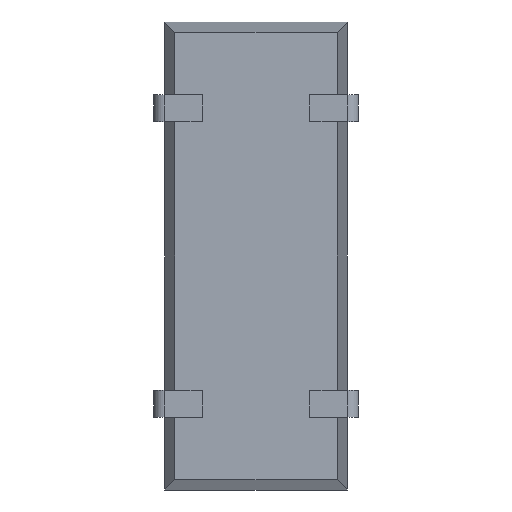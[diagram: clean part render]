
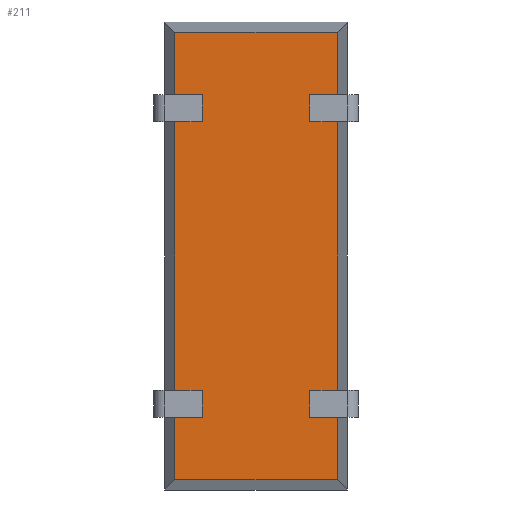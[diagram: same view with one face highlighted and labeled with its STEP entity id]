
A CAD part, front view. The second image highlights one B-rep face of the part: STEP entity #211.
In plain terms, the highlighted planar face has unit normal (0, -1, 0).
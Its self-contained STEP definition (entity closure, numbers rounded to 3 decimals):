
#125 = DIRECTION ( 'NONE',  ( 0., -1., 0. ) ) ;
#145 = DIRECTION ( 'NONE',  ( 0., 0., -1. ) ) ;
#162 = CARTESIAN_POINT ( 'NONE',  ( -1.7, 0.1, -4.35 ) ) ;
#165 = PLANE ( 'NONE',  #512 ) ;
#211 = ADVANCED_FACE ( 'NONE', ( #1540 ), #165, .T. ) ;
#359 = ORIENTED_EDGE ( 'NONE', *, *, #548, .F. ) ;
#368 = ORIENTED_EDGE ( 'NONE', *, *, #539, .F. ) ;
#379 = ORIENTED_EDGE ( 'NONE', *, *, #545, .T. ) ;
#388 = ORIENTED_EDGE ( 'NONE', *, *, #546, .T. ) ;
#404 = ORIENTED_EDGE ( 'NONE', *, *, #550, .F. ) ;
#471 = ORIENTED_EDGE ( 'NONE', *, *, #549, .F. ) ;
#472 = ORIENTED_EDGE ( 'NONE', *, *, #611, .F. ) ;
#473 = ORIENTED_EDGE ( 'NONE', *, *, #651, .F. ) ;
#475 = ORIENTED_EDGE ( 'NONE', *, *, #536, .F. ) ;
#480 = ORIENTED_EDGE ( 'NONE', *, *, #544, .F. ) ;
#482 = ORIENTED_EDGE ( 'NONE', *, *, #551, .T. ) ;
#487 = ORIENTED_EDGE ( 'NONE', *, *, #540, .T. ) ;
#488 = ORIENTED_EDGE ( 'NONE', *, *, #618, .F. ) ;
#489 = ORIENTED_EDGE ( 'NONE', *, *, #554, .F. ) ;
#490 = ORIENTED_EDGE ( 'NONE', *, *, #552, .F. ) ;
#491 = LINE ( 'NONE', #1799, #2175 ) ;
#492 = VECTOR ( 'NONE', #1815, 1000. ) ;
#493 = VECTOR ( 'NONE', #1819, 1000. ) ;
#494 = LINE ( 'NONE', #1818, #492 ) ;
#495 = LINE ( 'NONE', #1837, #493 ) ;
#496 = VECTOR ( 'NONE', #1804, 1000. ) ;
#512 = AXIS2_PLACEMENT_3D ( 'NONE', #162, #125, #145 ) ;
#536 = EDGE_CURVE ( 'NONE', #905, #926, #710, .T. ) ;
#537 = EDGE_CURVE ( 'NONE', #1040, #905, #713, .T. ) ;
#538 = EDGE_CURVE ( 'NONE', #1040, #863, #721, .T. ) ;
#539 = EDGE_CURVE ( 'NONE', #902, #863, #748, .T. ) ;
#540 = EDGE_CURVE ( 'NONE', #902, #1065, #704, .T. ) ;
#541 = EDGE_CURVE ( 'NONE', #1065, #1057, #744, .T. ) ;
#542 = EDGE_CURVE ( 'NONE', #946, #1057, #740, .T. ) ;
#543 = EDGE_CURVE ( 'NONE', #920, #946, #705, .T. ) ;
#544 = EDGE_CURVE ( 'NONE', #881, #920, #738, .T. ) ;
#545 = EDGE_CURVE ( 'NONE', #928, #1072, #690, .T. ) ;
#546 = EDGE_CURVE ( 'NONE', #1072, #1043, #1659, .T. ) ;
#548 = EDGE_CURVE ( 'NONE', #1039, #1043, #495, .T. ) ;
#549 = EDGE_CURVE ( 'NONE', #974, #866, #494, .T. ) ;
#550 = EDGE_CURVE ( 'NONE', #1053, #974, #1185, .T. ) ;
#551 = EDGE_CURVE ( 'NONE', #1053, #956, #1657, .T. ) ;
#552 = EDGE_CURVE ( 'NONE', #1041, #1070, #709, .T. ) ;
#554 = EDGE_CURVE ( 'NONE', #926, #1041, #491, .T. ) ;
#611 = EDGE_CURVE ( 'NONE', #866, #1039, #2285, .T. ) ;
#618 = EDGE_CURVE ( 'NONE', #1070, #956, #2298, .T. ) ;
#651 = EDGE_CURVE ( 'NONE', #928, #881, #2359, .T. ) ;
#681 = VECTOR ( 'NONE', #1825, 1000. ) ;
#690 = LINE ( 'NONE', #1845, #681 ) ;
#697 = VECTOR ( 'NONE', #1839, 1000. ) ;
#704 = LINE ( 'NONE', #1854, #742 ) ;
#705 = LINE ( 'NONE', #1849, #736 ) ;
#709 = LINE ( 'NONE', #1807, #496 ) ;
#710 = LINE ( 'NONE', #1870, #722 ) ;
#713 = LINE ( 'NONE', #1868, #718 ) ;
#718 = VECTOR ( 'NONE', #1852, 1000. ) ;
#721 = LINE ( 'NONE', #1851, #739 ) ;
#722 = VECTOR ( 'NONE', #1856, 1000. ) ;
#728 = VECTOR ( 'NONE', #1826, 1000. ) ;
#731 = VECTOR ( 'NONE', #1836, 1000. ) ;
#735 = VECTOR ( 'NONE', #1811, 1000. ) ;
#736 = VECTOR ( 'NONE', #1835, 1000. ) ;
#738 = LINE ( 'NONE', #1830, #728 ) ;
#739 = VECTOR ( 'NONE', #1848, 1000. ) ;
#740 = LINE ( 'NONE', #1838, #731 ) ;
#742 = VECTOR ( 'NONE', #1844, 1000. ) ;
#744 = LINE ( 'NONE', #1841, #697 ) ;
#745 = VECTOR ( 'NONE', #1847, 1000. ) ;
#748 = LINE ( 'NONE', #1858, #745 ) ;
#831 = ORIENTED_EDGE ( 'NONE', *, *, #542, .F. ) ;
#836 = ORIENTED_EDGE ( 'NONE', *, *, #538, .T. ) ;
#839 = ORIENTED_EDGE ( 'NONE', *, *, #537, .F. ) ;
#840 = ORIENTED_EDGE ( 'NONE', *, *, #541, .T. ) ;
#845 = ORIENTED_EDGE ( 'NONE', *, *, #543, .F. ) ;
#863 = VERTEX_POINT ( 'NONE', #1293 ) ;
#866 = VERTEX_POINT ( 'NONE', #1211 ) ;
#881 = VERTEX_POINT ( 'NONE', #1249 ) ;
#902 = VERTEX_POINT ( 'NONE', #1216 ) ;
#905 = VERTEX_POINT ( 'NONE', #1273 ) ;
#920 = VERTEX_POINT ( 'NONE', #1113 ) ;
#926 = VERTEX_POINT ( 'NONE', #1245 ) ;
#928 = VERTEX_POINT ( 'NONE', #1244 ) ;
#946 = VERTEX_POINT ( 'NONE', #1252 ) ;
#956 = VERTEX_POINT ( 'NONE', #1212 ) ;
#974 = VERTEX_POINT ( 'NONE', #1208 ) ;
#1039 = VERTEX_POINT ( 'NONE', #1196 ) ;
#1040 = VERTEX_POINT ( 'NONE', #1269 ) ;
#1041 = VERTEX_POINT ( 'NONE', #1192 ) ;
#1043 = VERTEX_POINT ( 'NONE', #1193 ) ;
#1053 = VERTEX_POINT ( 'NONE', #1201 ) ;
#1057 = VERTEX_POINT ( 'NONE', #1203 ) ;
#1065 = VERTEX_POINT ( 'NONE', #1253 ) ;
#1070 = VERTEX_POINT ( 'NONE', #1268 ) ;
#1072 = VERTEX_POINT ( 'NONE', #1164 ) ;
#1113 = CARTESIAN_POINT ( 'NONE',  ( 1.51, 0.1, 4.16 ) ) ;
#1164 = CARTESIAN_POINT ( 'NONE',  ( -1., 0.1, 3. ) ) ;
#1185 = LINE ( 'NONE', #1814, #735 ) ;
#1192 = CARTESIAN_POINT ( 'NONE',  ( 1.51, 0.1, -4.16 ) ) ;
#1193 = CARTESIAN_POINT ( 'NONE',  ( -1., 0.1, 2.5 ) ) ;
#1196 = CARTESIAN_POINT ( 'NONE',  ( -1.51, 0.1, 2.5 ) ) ;
#1201 = CARTESIAN_POINT ( 'NONE',  ( -1., 0.1, -3. ) ) ;
#1203 = CARTESIAN_POINT ( 'NONE',  ( 1., 0.1, 3. ) ) ;
#1208 = CARTESIAN_POINT ( 'NONE',  ( -1., 0.1, -2.5 ) ) ;
#1211 = CARTESIAN_POINT ( 'NONE',  ( -1.51, 0.1, -2.5 ) ) ;
#1212 = CARTESIAN_POINT ( 'NONE',  ( -1.51, 0.1, -3. ) ) ;
#1216 = CARTESIAN_POINT ( 'NONE',  ( 1.51, 0.1, 2.5 ) ) ;
#1220 = DIRECTION ( 'NONE',  ( 0., 0., 1. ) ) ;
#1244 = CARTESIAN_POINT ( 'NONE',  ( -1.51, 0.1, 3. ) ) ;
#1245 = CARTESIAN_POINT ( 'NONE',  ( 1.51, 0.1, -3. ) ) ;
#1249 = CARTESIAN_POINT ( 'NONE',  ( -1.51, 0.1, 4.16 ) ) ;
#1252 = CARTESIAN_POINT ( 'NONE',  ( 1.51, 0.1, 3. ) ) ;
#1253 = CARTESIAN_POINT ( 'NONE',  ( 1., 0.1, 2.5 ) ) ;
#1268 = CARTESIAN_POINT ( 'NONE',  ( -1.51, 0.1, -4.16 ) ) ;
#1269 = CARTESIAN_POINT ( 'NONE',  ( 1., 0.1, -2.5 ) ) ;
#1273 = CARTESIAN_POINT ( 'NONE',  ( 1., 0.1, -3. ) ) ;
#1293 = CARTESIAN_POINT ( 'NONE',  ( 1.51, 0.1, -2.5 ) ) ;
#1318 = CARTESIAN_POINT ( 'NONE',  ( -1.51, 0.1, 4.35 ) ) ;
#1540 = FACE_OUTER_BOUND ( 'NONE', #1596, .T. ) ;
#1596 = EDGE_LOOP ( 'NONE', ( #475, #839, #836, #368, #487, #840, #831, #845, #480, #473, #379, #388, #359, #472, #471, #404, #482, #488, #490, #489 ) ) ;
#1655 = VECTOR ( 'NONE', #1809, 1000. ) ;
#1657 = LINE ( 'NONE', #1828, #1655 ) ;
#1658 = VECTOR ( 'NONE', #1823, 1000. ) ;
#1659 = LINE ( 'NONE', #1824, #1658 ) ;
#1677 = DIRECTION ( 'NONE',  ( 0., 0., 1. ) ) ;
#1678 = CARTESIAN_POINT ( 'NONE',  ( -1.51, 0.1, 4.35 ) ) ;
#1694 = DIRECTION ( 'NONE',  ( 0., 0., 1. ) ) ;
#1695 = CARTESIAN_POINT ( 'NONE',  ( -1.51, 0.1, 4.35 ) ) ;
#1798 = DIRECTION ( 'NONE',  ( 0., 0., -1. ) ) ;
#1799 = CARTESIAN_POINT ( 'NONE',  ( 1.51, 0.1, 4.35 ) ) ;
#1804 = DIRECTION ( 'NONE',  ( -1., 0., 0. ) ) ;
#1807 = CARTESIAN_POINT ( 'NONE',  ( -1.7, 0.1, -4.16 ) ) ;
#1809 = DIRECTION ( 'NONE',  ( -1., 0., 0. ) ) ;
#1811 = DIRECTION ( 'NONE',  ( 0., 0., 1. ) ) ;
#1814 = CARTESIAN_POINT ( 'NONE',  ( -1., 0.1, -4.35 ) ) ;
#1815 = DIRECTION ( 'NONE',  ( -1., 0., 0. ) ) ;
#1818 = CARTESIAN_POINT ( 'NONE',  ( -1.7, 0.1, -2.5 ) ) ;
#1819 = DIRECTION ( 'NONE',  ( 1., 0., 0. ) ) ;
#1823 = DIRECTION ( 'NONE',  ( 0., 0., -1. ) ) ;
#1824 = CARTESIAN_POINT ( 'NONE',  ( -1., 0.1, -4.35 ) ) ;
#1825 = DIRECTION ( 'NONE',  ( 1., 0., 0. ) ) ;
#1826 = DIRECTION ( 'NONE',  ( 1., 0., 0. ) ) ;
#1828 = CARTESIAN_POINT ( 'NONE',  ( -1.7, 0.1, -3. ) ) ;
#1830 = CARTESIAN_POINT ( 'NONE',  ( -1.7, 0.1, 4.16 ) ) ;
#1835 = DIRECTION ( 'NONE',  ( 0., 0., -1. ) ) ;
#1836 = DIRECTION ( 'NONE',  ( -1., 0., 0. ) ) ;
#1837 = CARTESIAN_POINT ( 'NONE',  ( -1.7, 0.1, 2.5 ) ) ;
#1838 = CARTESIAN_POINT ( 'NONE',  ( -1.7, 0.1, 3. ) ) ;
#1839 = DIRECTION ( 'NONE',  ( 0., 0., 1. ) ) ;
#1841 = CARTESIAN_POINT ( 'NONE',  ( 1., 0.1, -4.35 ) ) ;
#1844 = DIRECTION ( 'NONE',  ( -1., 0., 0. ) ) ;
#1845 = CARTESIAN_POINT ( 'NONE',  ( -1.7, 0.1, 3. ) ) ;
#1847 = DIRECTION ( 'NONE',  ( 0., 0., -1. ) ) ;
#1848 = DIRECTION ( 'NONE',  ( 1., 0., 0. ) ) ;
#1849 = CARTESIAN_POINT ( 'NONE',  ( 1.51, 0.1, 4.35 ) ) ;
#1851 = CARTESIAN_POINT ( 'NONE',  ( -1.7, 0.1, -2.5 ) ) ;
#1852 = DIRECTION ( 'NONE',  ( 0., 0., -1. ) ) ;
#1854 = CARTESIAN_POINT ( 'NONE',  ( -1.7, 0.1, 2.5 ) ) ;
#1856 = DIRECTION ( 'NONE',  ( 1., 0., 0. ) ) ;
#1858 = CARTESIAN_POINT ( 'NONE',  ( 1.51, 0.1, 4.35 ) ) ;
#1868 = CARTESIAN_POINT ( 'NONE',  ( 1., 0.1, -4.35 ) ) ;
#1870 = CARTESIAN_POINT ( 'NONE',  ( -1.7, 0.1, -3. ) ) ;
#2175 = VECTOR ( 'NONE', #1798, 1000. ) ;
#2285 = LINE ( 'NONE', #1695, #2288 ) ;
#2288 = VECTOR ( 'NONE', #1694, 1000. ) ;
#2298 = LINE ( 'NONE', #1678, #2301 ) ;
#2301 = VECTOR ( 'NONE', #1677, 1000. ) ;
#2359 = LINE ( 'NONE', #1318, #2362 ) ;
#2362 = VECTOR ( 'NONE', #1220, 1000. ) ;
